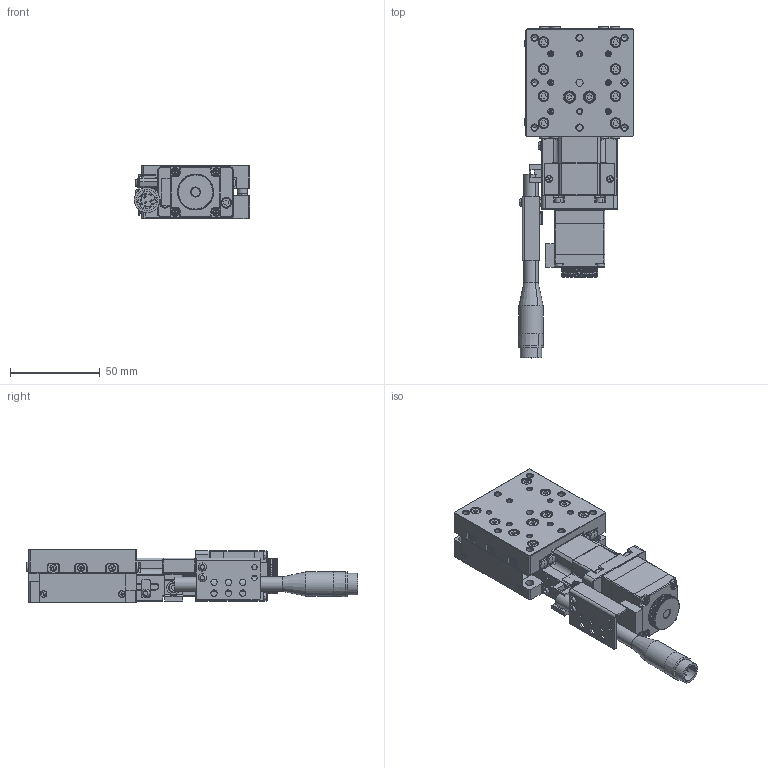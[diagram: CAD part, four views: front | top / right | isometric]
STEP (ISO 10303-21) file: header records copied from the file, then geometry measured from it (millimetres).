
FILE_DESCRIPTION (( 'STEP AP214' ), '1' );
FILE_NAME ('TXA6020B-L2-M28L.STEP', '2025-01-03T11:14:53', ( '' ), ( '' ), 'SwSTEP 2.0', 'SolidWorks 2020', '' );
FILE_SCHEMA (( 'AUTOMOTIVE_DESIGN' ));
Length unit declared in the file: millimetre
Products named in the file (1): TXA6020B-L2-M28L
Bounding box: 63.98 x 184.5 x 30 mm (x, y, z)
Volume: 137748.3 mm3; surface area: 81439 mm2
Topology: 81 solids, 81 shells, 3540 faces, 8839 edges, 5565 vertices
Faces by surface type: plane 1790, cylinder 904, cone 516, torus 172, bspline 154, sphere 4
Entity records: 152575 total; most frequent: CARTESIAN_POINT 28130, ORIENTED_EDGE 17514, DIRECTION 17364, EDGE_CURVE 8757, AXIS2_PLACEMENT_3D 6010, VERTEX_POINT 5565, VECTOR 5344, LINE 5344
